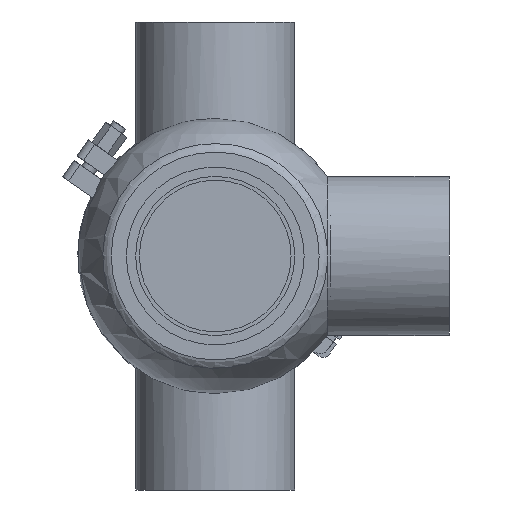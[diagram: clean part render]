
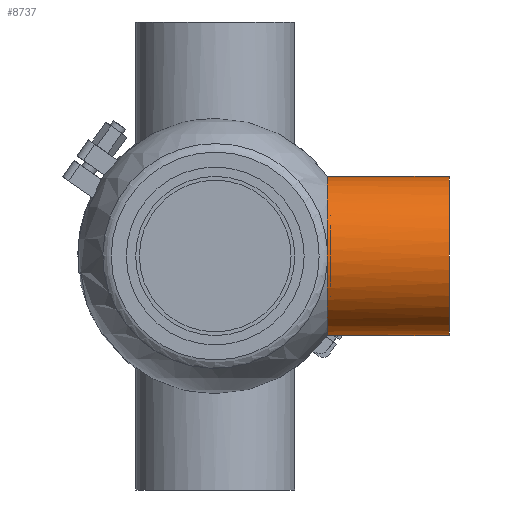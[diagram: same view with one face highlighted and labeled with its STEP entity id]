
A CAD part, front view. The second image highlights one B-rep face of the part: STEP entity #8737.
In plain terms, the highlighted cylindrical face has radius 42.5 mm (diameter 85 mm), a full revolution.
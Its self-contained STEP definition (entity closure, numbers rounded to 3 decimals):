
#849 = EDGE_CURVE ( 'NONE', #10187, #10586, #15798, .T. ) ;
#859 = ORIENTED_EDGE ( 'NONE', *, *, #849, .T. ) ;
#1112 = CARTESIAN_POINT ( 'NONE',  ( 59.965, -42.5, 1.129 ) ) ;
#1303 = CARTESIAN_POINT ( 'NONE',  ( 60., 42.5, -0.672 ) ) ;
#1442 = CARTESIAN_POINT ( 'NONE',  ( 59.967, -42.455, 2.244 ) ) ;
#1812 = CARTESIAN_POINT ( 'NONE',  ( 59.967, 0., 0. ) ) ;
#1893 = AXIS2_PLACEMENT_3D ( 'NONE', #17755, #4293, #10950 ) ;
#3848 = CARTESIAN_POINT ( 'NONE',  ( 59.967, 42.453, 2. ) ) ;
#4285 = ORIENTED_EDGE ( 'NONE', *, *, #7541, .T. ) ;
#4293 = DIRECTION ( 'NONE',  ( -1., 0., 0. ) ) ;
#4300 = AXIS2_PLACEMENT_3D ( 'NONE', #1812, #5160, #19685 ) ;
#5160 = DIRECTION ( 'NONE',  ( 1., 0., 0. ) ) ;
#5502 = CARTESIAN_POINT ( 'NONE',  ( 125., 0., 0. ) ) ;
#6153 = DIRECTION ( 'NONE',  ( -1., 0., 0. ) ) ;
#6234 = AXIS2_PLACEMENT_3D ( 'NONE', #8986, #7373, #14013 ) ;
#6291 = CARTESIAN_POINT ( 'NONE',  ( 59.989, 42.484, 1.336 ) ) ;
#6903 = VERTEX_POINT ( 'NONE', #10454 ) ;
#7373 = DIRECTION ( 'NONE',  ( 1., 0., 0. ) ) ;
#7541 = EDGE_CURVE ( 'NONE', #9280, #10187, #10737, .T. ) ;
#8504 = EDGE_CURVE ( 'NONE', #10586, #21214, #13742, .T. ) ;
#8737 = ADVANCED_FACE ( 'NONE', ( #19378, #21112 ), #12821, .T. ) ;
#8986 = CARTESIAN_POINT ( 'NONE',  ( 59.967, 0., 0. ) ) ;
#9010 = EDGE_CURVE ( 'NONE', #6903, #6903, #20659, .T. ) ;
#9280 = VERTEX_POINT ( 'NONE', #3848 ) ;
#9796 = CARTESIAN_POINT ( 'NONE',  ( 59.967, -42.412, -2.797 ) ) ;
#10020 = ORIENTED_EDGE ( 'NONE', *, *, #8504, .T. ) ;
#10187 = VERTEX_POINT ( 'NONE', #16822 ) ;
#10224 = ORIENTED_EDGE ( 'NONE', *, *, #9010, .T. ) ;
#10454 = CARTESIAN_POINT ( 'NONE',  ( 125., 0., 42.5 ) ) ;
#10586 = VERTEX_POINT ( 'NONE', #18300 ) ;
#10737 = CIRCLE ( 'NONE', #6234, 42.5 ) ;
#10950 = DIRECTION ( 'NONE',  ( 0., 0., 1. ) ) ;
#11056 = CARTESIAN_POINT ( 'NONE',  ( 59.967, 42.453, -2. ) ) ;
#11134 = DIRECTION ( 'NONE',  ( 0., 0., 1. ) ) ;
#11238 = AXIS2_PLACEMENT_3D ( 'NONE', #5502, #6153, #11134 ) ;
#11423 = CARTESIAN_POINT ( 'NONE',  ( 59.967, -42.367, -3.354 ) ) ;
#11672 = CARTESIAN_POINT ( 'NONE',  ( 59.967, 42.453, -2. ) ) ;
#12821 = CYLINDRICAL_SURFACE ( 'NONE', #1893, 42.5 ) ;
#12939 = CARTESIAN_POINT ( 'NONE',  ( 59.967, 42.453, 2. ) ) ;
#13742 = CIRCLE ( 'NONE', #4300, 42.5 ) ;
#14013 = DIRECTION ( 'NONE',  ( 0., 0., 1. ) ) ;
#14129 = EDGE_LOOP ( 'NONE', ( #10224 ) ) ;
#14400 = CARTESIAN_POINT ( 'NONE',  ( 59.967, -42.367, 3.354 ) ) ;
#14578 = CARTESIAN_POINT ( 'NONE',  ( 60., 42.5, 0.666 ) ) ;
#14733 = CARTESIAN_POINT ( 'NONE',  ( 59.965, -42.5, -0.553 ) ) ;
#15798 = B_SPLINE_CURVE_WITH_KNOTS ( 'NONE', 3,
 ( #14400, #1442, #1112, #14733, #17785, #21032, #9796, #11423 ),
 .UNSPECIFIED., .F., .F.,
 ( 4, 2, 2, 4 ),
 ( 0.025, 0.028, 0.03, 0.032 ),
 .UNSPECIFIED. ) ;
#15871 = EDGE_LOOP ( 'NONE', ( #4285, #859, #10020, #20263 ) ) ;
#16226 = CARTESIAN_POINT ( 'NONE',  ( 59.989, 42.484, -1.338 ) ) ;
#16822 = CARTESIAN_POINT ( 'NONE',  ( 59.967, -42.367, 3.354 ) ) ;
#16902 = B_SPLINE_CURVE_WITH_KNOTS ( 'NONE', 3,
 ( #11056, #16226, #1303, #14578, #6291, #12939 ),
 .UNSPECIFIED., .F., .F.,
 ( 4, 2, 4 ),
 ( 0.024, 0.026, 0.028 ),
 .UNSPECIFIED. ) ;
#17241 = EDGE_CURVE ( 'NONE', #21214, #9280, #16902, .T. ) ;
#17755 = CARTESIAN_POINT ( 'NONE',  ( 0., 0., 0. ) ) ;
#17785 = CARTESIAN_POINT ( 'NONE',  ( 59.965, -42.489, -1.116 ) ) ;
#18300 = CARTESIAN_POINT ( 'NONE',  ( 59.967, -42.367, -3.354 ) ) ;
#19378 = FACE_OUTER_BOUND ( 'NONE', #15871, .T. ) ;
#19685 = DIRECTION ( 'NONE',  ( 0., 0., 1. ) ) ;
#20263 = ORIENTED_EDGE ( 'NONE', *, *, #17241, .T. ) ;
#20659 = CIRCLE ( 'NONE', #11238, 42.5 ) ;
#21032 = CARTESIAN_POINT ( 'NONE',  ( 59.966, -42.445, -2.238 ) ) ;
#21112 = FACE_OUTER_BOUND ( 'NONE', #14129, .T. ) ;
#21214 = VERTEX_POINT ( 'NONE', #11672 ) ;
